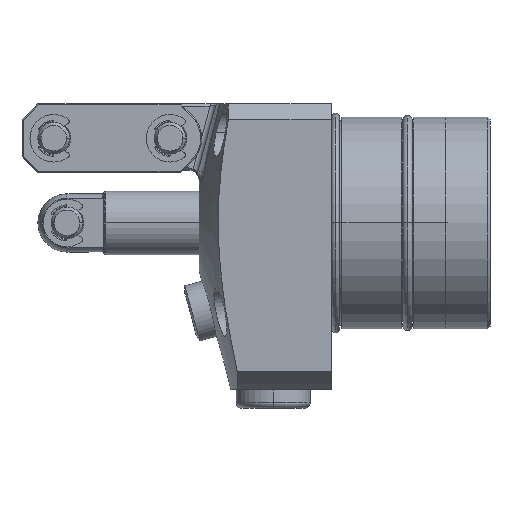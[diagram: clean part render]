
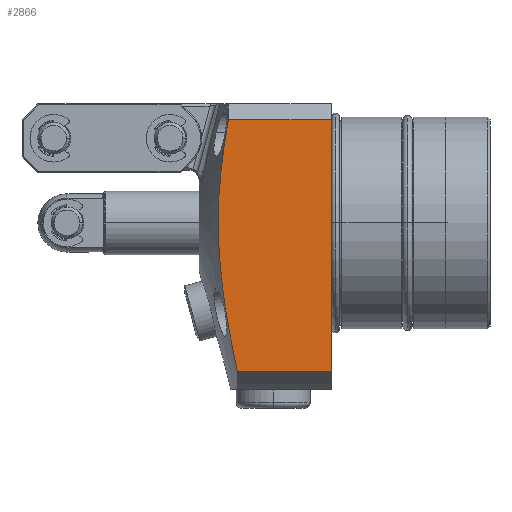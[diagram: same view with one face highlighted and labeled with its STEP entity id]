
A CAD part, top view. The second image highlights one B-rep face of the part: STEP entity #2866.
In plain terms, the highlighted planar face has unit normal (0, 0, 1).
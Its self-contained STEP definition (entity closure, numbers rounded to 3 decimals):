
#1501=B_SPLINE_CURVE_WITH_KNOTS('',3,(#11809,#11810,#11811,#11812,#11813,
#11814,#11815,#11816),.UNSPECIFIED.,.F.,.F.,(4,2,2,4),(0.,0.5,0.75,1.),
 .UNSPECIFIED.);
#1745=PLANE('',#7839);
#2260=LINE('',#11837,#2572);
#2261=LINE('',#11839,#2573);
#2262=LINE('',#11841,#2574);
#2572=VECTOR('',#9452,1.);
#2573=VECTOR('',#9455,1.);
#2574=VECTOR('',#9456,1.);
#2866=ADVANCED_FACE('',(#3307),#1745,.F.);
#3307=FACE_OUTER_BOUND('',#3692,.T.);
#3692=EDGE_LOOP('',(#4881,#4882,#4883,#4884));
#4881=ORIENTED_EDGE('',*,*,#6620,.F.);
#4882=ORIENTED_EDGE('',*,*,#6621,.T.);
#4883=ORIENTED_EDGE('',*,*,#6609,.F.);
#4884=ORIENTED_EDGE('',*,*,#6619,.F.);
#5920=VERTEX_POINT('',#11808);
#5921=VERTEX_POINT('',#11817);
#5925=VERTEX_POINT('',#11836);
#5926=VERTEX_POINT('',#11840);
#6609=EDGE_CURVE('',#5920,#5921,#1501,.T.);
#6619=EDGE_CURVE('',#5925,#5920,#2260,.T.);
#6620=EDGE_CURVE('',#5926,#5925,#2261,.T.);
#6621=EDGE_CURVE('',#5926,#5921,#2262,.T.);
#7839=AXIS2_PLACEMENT_3D('',#11842,#9457,#9458);
#9452=DIRECTION('',(-1.,0.,0.));
#9455=DIRECTION('',(0.,-1.,0.));
#9456=DIRECTION('',(-1.,0.,0.));
#9457=DIRECTION('',(0.,0.,-1.));
#9458=DIRECTION('',(0.,1.,0.));
#11808=CARTESIAN_POINT('',(-17.792,-28.102,22.5));
#11809=CARTESIAN_POINT('',(-17.792,-28.102,22.5));
#11810=CARTESIAN_POINT('',(-19.43,-20.269,22.5));
#11811=CARTESIAN_POINT('',(-20.875,-12.419,22.5));
#11812=CARTESIAN_POINT('',(-21.498,-0.509,22.5));
#11813=CARTESIAN_POINT('',(-21.423,3.485,22.5));
#11814=CARTESIAN_POINT('',(-20.742,11.52,22.5));
#11815=CARTESIAN_POINT('',(-20.158,15.522,22.5));
#11816=CARTESIAN_POINT('',(-19.46,19.5,22.5));
#11817=CARTESIAN_POINT('',(-19.46,19.5,22.5));
#11836=CARTESIAN_POINT('',(0.,-28.102,22.5));
#11837=CARTESIAN_POINT('',(23.001,-28.102,22.5));
#11839=CARTESIAN_POINT('',(0.,0.,22.5));
#11840=CARTESIAN_POINT('',(0.,19.5,22.5));
#11841=CARTESIAN_POINT('',(23.001,19.5,22.5));
#11842=CARTESIAN_POINT('',(23.001,0.,22.5));
